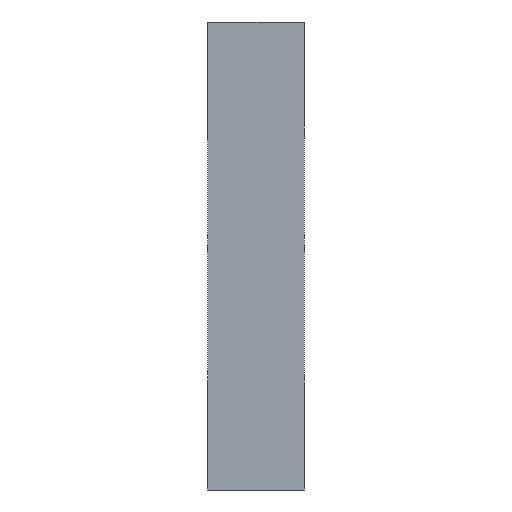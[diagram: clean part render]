
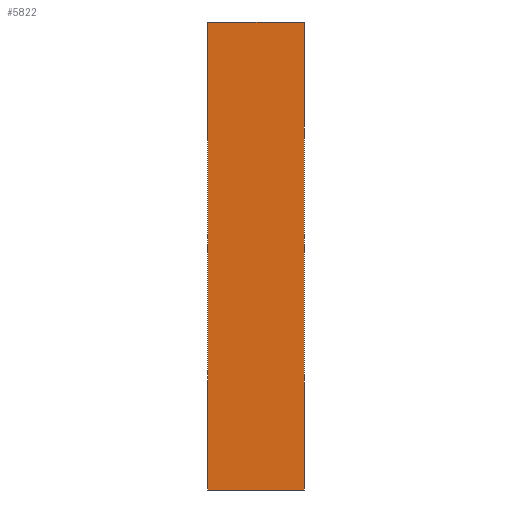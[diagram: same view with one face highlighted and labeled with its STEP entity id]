
A CAD part, left-side view. The second image highlights one B-rep face of the part: STEP entity #5822.
In plain terms, the highlighted planar face has unit normal (-1, 0, 0).
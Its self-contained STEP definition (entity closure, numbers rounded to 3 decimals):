
#291 = CARTESIAN_POINT ( 'NONE',  ( 0., 0., -185. ) ) ;
#1085 = VERTEX_POINT ( 'NONE', #291 ) ;
#1641 = CARTESIAN_POINT ( 'NONE',  ( 0., 38., 0. ) ) ;
#1643 = PLANE ( 'NONE',  #1943 ) ;
#1645 = DIRECTION ( 'NONE',  ( 1., 0., 0. ) ) ;
#1646 = DIRECTION ( 'NONE',  ( 0., 0., -1. ) ) ;
#1883 = FACE_OUTER_BOUND ( 'NONE', #4917, .T. ) ;
#1943 = AXIS2_PLACEMENT_3D ( 'NONE', #1641, #1645, #1646 ) ;
#3567 = LINE ( 'NONE', #3827, #3572 ) ;
#3572 = VECTOR ( 'NONE', #3833, 1000. ) ;
#3827 = CARTESIAN_POINT ( 'NONE',  ( 0., 38., 0. ) ) ;
#3833 = DIRECTION ( 'NONE',  ( 0., -1., 0. ) ) ;
#4229 = VECTOR ( 'NONE', #4390, 1000. ) ;
#4231 = LINE ( 'NONE', #4370, #4234 ) ;
#4232 = LINE ( 'NONE', #4389, #4229 ) ;
#4233 = LINE ( 'NONE', #4392, #4236 ) ;
#4234 = VECTOR ( 'NONE', #4391, 1000. ) ;
#4236 = VECTOR ( 'NONE', #4393, 1000. ) ;
#4370 = CARTESIAN_POINT ( 'NONE',  ( 0., 38., 0. ) ) ;
#4389 = CARTESIAN_POINT ( 'NONE',  ( 0., 0., 0. ) ) ;
#4390 = DIRECTION ( 'NONE',  ( 0., 0., 1. ) ) ;
#4391 = DIRECTION ( 'NONE',  ( 0., 0., 1. ) ) ;
#4392 = CARTESIAN_POINT ( 'NONE',  ( 0., 38., -185. ) ) ;
#4393 = DIRECTION ( 'NONE',  ( 0., -1., 0. ) ) ;
#4577 = CARTESIAN_POINT ( 'NONE',  ( 0., 38., 0. ) ) ;
#4674 = CARTESIAN_POINT ( 'NONE',  ( 0., 0., 0. ) ) ;
#4703 = CARTESIAN_POINT ( 'NONE',  ( 0., 38., -185. ) ) ;
#4917 = EDGE_LOOP ( 'NONE', ( #6707, #6708, #6709, #6710 ) ) ;
#5822 = ADVANCED_FACE ( 'NONE', ( #1883 ), #1643, .F. ) ;
#5928 = EDGE_CURVE ( 'NONE', #6444, #6597, #3567, .T. ) ;
#5970 = EDGE_CURVE ( 'NONE', #1085, #6597, #4232, .T. ) ;
#5971 = EDGE_CURVE ( 'NONE', #6626, #6444, #4231, .T. ) ;
#5972 = EDGE_CURVE ( 'NONE', #6626, #1085, #4233, .T. ) ;
#6444 = VERTEX_POINT ( 'NONE', #4577 ) ;
#6597 = VERTEX_POINT ( 'NONE', #4674 ) ;
#6626 = VERTEX_POINT ( 'NONE', #4703 ) ;
#6707 = ORIENTED_EDGE ( 'NONE', *, *, #5970, .T. ) ;
#6708 = ORIENTED_EDGE ( 'NONE', *, *, #5928, .F. ) ;
#6709 = ORIENTED_EDGE ( 'NONE', *, *, #5971, .F. ) ;
#6710 = ORIENTED_EDGE ( 'NONE', *, *, #5972, .T. ) ;
